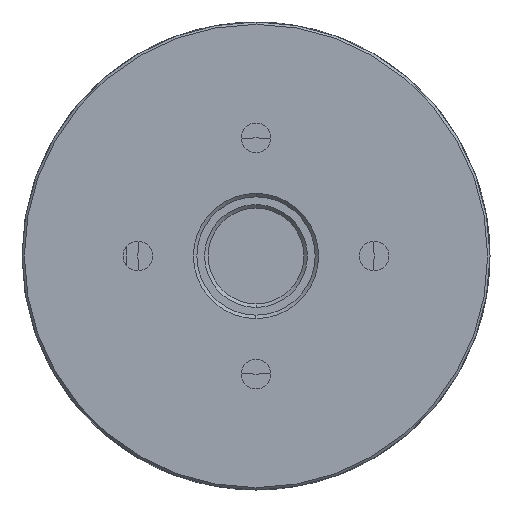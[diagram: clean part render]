
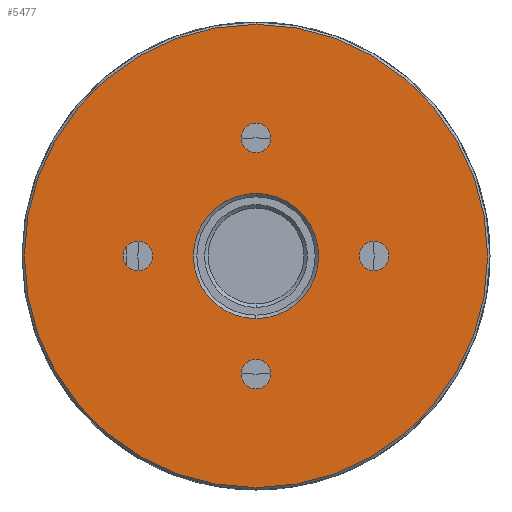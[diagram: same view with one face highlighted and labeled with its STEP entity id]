
A CAD part, left-side view. The second image highlights one B-rep face of the part: STEP entity #5477.
In plain terms, the highlighted planar face has unit normal (-1, 0, 0).
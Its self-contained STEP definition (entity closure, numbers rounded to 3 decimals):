
#197 = CARTESIAN_POINT ( 'NONE',  ( 0., 0., 5.3 ) ) ;
#352 = EDGE_LOOP ( 'NONE', ( #5646, #4902 ) ) ;
#401 = EDGE_CURVE ( 'NONE', #3751, #5992, #841, .T. ) ;
#447 = AXIS2_PLACEMENT_3D ( 'NONE', #2654, #4923, #7214 ) ;
#498 = CARTESIAN_POINT ( 'NONE',  ( 0., 0., -19.6 ) ) ;
#683 = AXIS2_PLACEMENT_3D ( 'NONE', #3806, #959, #2011 ) ;
#688 = VERTEX_POINT ( 'NONE', #6871 ) ;
#704 = DIRECTION ( 'NONE',  ( -1., 0., 0. ) ) ;
#709 = CIRCLE ( 'NONE', #3686, 19.6 ) ;
#819 = EDGE_CURVE ( 'NONE', #946, #4851, #6799, .T. ) ;
#841 = CIRCLE ( 'NONE', #6095, 1.25 ) ;
#900 = FACE_BOUND ( 'NONE', #5764, .T. ) ;
#914 = AXIS2_PLACEMENT_3D ( 'NONE', #2620, #6129, #5570 ) ;
#937 = FACE_BOUND ( 'NONE', #352, .T. ) ;
#946 = VERTEX_POINT ( 'NONE', #4760 ) ;
#959 = DIRECTION ( 'NONE',  ( 1., 0., 0. ) ) ;
#1059 = VERTEX_POINT ( 'NONE', #498 ) ;
#1065 = VERTEX_POINT ( 'NONE', #3858 ) ;
#1079 = CARTESIAN_POINT ( 'NONE',  ( 0., 0., 10. ) ) ;
#1189 = DIRECTION ( 'NONE',  ( 0., 0., 1. ) ) ;
#1194 = DIRECTION ( 'NONE',  ( 0., 0., 1. ) ) ;
#1272 = AXIS2_PLACEMENT_3D ( 'NONE', #6823, #2042, #4329 ) ;
#1385 = CIRCLE ( 'NONE', #2345, 1.25 ) ;
#1468 = ORIENTED_EDGE ( 'NONE', *, *, #4289, .F. ) ;
#1708 = DIRECTION ( 'NONE',  ( -1., 0., 0. ) ) ;
#1727 = CIRCLE ( 'NONE', #5906, 1.25 ) ;
#1782 = CARTESIAN_POINT ( 'NONE',  ( 0., 0., -11.25 ) ) ;
#1792 = DIRECTION ( 'NONE',  ( 0., 0., 1. ) ) ;
#1870 = DIRECTION ( 'NONE',  ( 0., 0., 1. ) ) ;
#1892 = EDGE_LOOP ( 'NONE', ( #5999, #1911 ) ) ;
#1911 = ORIENTED_EDGE ( 'NONE', *, *, #3058, .F. ) ;
#2011 = DIRECTION ( 'NONE',  ( 0., 0., -1. ) ) ;
#2042 = DIRECTION ( 'NONE',  ( -1., 0., 0. ) ) ;
#2096 = FACE_OUTER_BOUND ( 'NONE', #4125, .T. ) ;
#2112 = CIRCLE ( 'NONE', #447, 5.3 ) ;
#2267 = EDGE_CURVE ( 'NONE', #4851, #946, #4434, .T. ) ;
#2345 = AXIS2_PLACEMENT_3D ( 'NONE', #4827, #6486, #7113 ) ;
#2487 = VERTEX_POINT ( 'NONE', #7045 ) ;
#2569 = DIRECTION ( 'NONE',  ( 0., 0., -1. ) ) ;
#2620 = CARTESIAN_POINT ( 'NONE',  ( 0., -10., 0. ) ) ;
#2654 = CARTESIAN_POINT ( 'NONE',  ( 0., 0., 0. ) ) ;
#2660 = PLANE ( 'NONE',  #7239 ) ;
#2828 = CIRCLE ( 'NONE', #4260, 5.3 ) ;
#2846 = AXIS2_PLACEMENT_3D ( 'NONE', #7281, #6276, #1189 ) ;
#2984 = DIRECTION ( 'NONE',  ( 0., 0., 1. ) ) ;
#3011 = EDGE_CURVE ( 'NONE', #1059, #2487, #3895, .T. ) ;
#3014 = ORIENTED_EDGE ( 'NONE', *, *, #3011, .F. ) ;
#3058 = EDGE_CURVE ( 'NONE', #688, #7334, #4490, .T. ) ;
#3118 = AXIS2_PLACEMENT_3D ( 'NONE', #4009, #7371, #6891 ) ;
#3212 = FACE_BOUND ( 'NONE', #7179, .T. ) ;
#3375 = ORIENTED_EDGE ( 'NONE', *, *, #819, .F. ) ;
#3550 = CIRCLE ( 'NONE', #914, 1.25 ) ;
#3585 = VERTEX_POINT ( 'NONE', #6038 ) ;
#3686 = AXIS2_PLACEMENT_3D ( 'NONE', #6538, #6117, #2569 ) ;
#3745 = EDGE_LOOP ( 'NONE', ( #6708, #1468 ) ) ;
#3751 = VERTEX_POINT ( 'NONE', #1782 ) ;
#3784 = FACE_BOUND ( 'NONE', #1892, .T. ) ;
#3806 = CARTESIAN_POINT ( 'NONE',  ( 0., 0., 0. ) ) ;
#3858 = CARTESIAN_POINT ( 'NONE',  ( 0., 0., -5.3 ) ) ;
#3895 = CIRCLE ( 'NONE', #683, 19.6 ) ;
#3999 = DIRECTION ( 'NONE',  ( -1., 0., 0. ) ) ;
#4009 = CARTESIAN_POINT ( 'NONE',  ( 0., 10., 0. ) ) ;
#4074 = DIRECTION ( 'NONE',  ( -1., 0., 0. ) ) ;
#4125 = EDGE_LOOP ( 'NONE', ( #3014, #5886 ) ) ;
#4260 = AXIS2_PLACEMENT_3D ( 'NONE', #6994, #4074, #1870 ) ;
#4289 = EDGE_CURVE ( 'NONE', #3585, #6977, #6062, .T. ) ;
#4329 = DIRECTION ( 'NONE',  ( 0., 0., 1. ) ) ;
#4434 = CIRCLE ( 'NONE', #3118, 1.25 ) ;
#4490 = CIRCLE ( 'NONE', #1272, 1.25 ) ;
#4522 = AXIS2_PLACEMENT_3D ( 'NONE', #5818, #704, #2984 ) ;
#4537 = ORIENTED_EDGE ( 'NONE', *, *, #5852, .F. ) ;
#4540 = ORIENTED_EDGE ( 'NONE', *, *, #2267, .F. ) ;
#4621 = CARTESIAN_POINT ( 'NONE',  ( 0., 10., 1.25 ) ) ;
#4693 = EDGE_CURVE ( 'NONE', #2487, #1059, #709, .T. ) ;
#4760 = CARTESIAN_POINT ( 'NONE',  ( 0., 10., -1.25 ) ) ;
#4827 = CARTESIAN_POINT ( 'NONE',  ( 0., 0., -10. ) ) ;
#4851 = VERTEX_POINT ( 'NONE', #4621 ) ;
#4902 = ORIENTED_EDGE ( 'NONE', *, *, #401, .F. ) ;
#4923 = DIRECTION ( 'NONE',  ( -1., 0., 0. ) ) ;
#4932 = CARTESIAN_POINT ( 'NONE',  ( 0., 19.8, 0. ) ) ;
#5150 = CARTESIAN_POINT ( 'NONE',  ( 0., -10., 1.25 ) ) ;
#5418 = EDGE_CURVE ( 'NONE', #5992, #3751, #1385, .T. ) ;
#5477 = ADVANCED_FACE ( 'NONE', ( #900, #3784, #6063, #937, #3212, #2096 ), #2660, .F. ) ;
#5537 = DIRECTION ( 'NONE',  ( 0., 0., -1. ) ) ;
#5570 = DIRECTION ( 'NONE',  ( 0., 0., 1. ) ) ;
#5599 = EDGE_CURVE ( 'NONE', #7070, #1065, #2112, .T. ) ;
#5640 = EDGE_CURVE ( 'NONE', #6977, #3585, #3550, .T. ) ;
#5646 = ORIENTED_EDGE ( 'NONE', *, *, #5418, .F. ) ;
#5764 = EDGE_LOOP ( 'NONE', ( #7003, #4537 ) ) ;
#5818 = CARTESIAN_POINT ( 'NONE',  ( 0., 10., 0. ) ) ;
#5852 = EDGE_CURVE ( 'NONE', #1065, #7070, #2828, .T. ) ;
#5886 = ORIENTED_EDGE ( 'NONE', *, *, #4693, .F. ) ;
#5906 = AXIS2_PLACEMENT_3D ( 'NONE', #1079, #3999, #1194 ) ;
#5970 = CARTESIAN_POINT ( 'NONE',  ( 0., 0., -8.75 ) ) ;
#5992 = VERTEX_POINT ( 'NONE', #5970 ) ;
#5999 = ORIENTED_EDGE ( 'NONE', *, *, #6933, .F. ) ;
#6038 = CARTESIAN_POINT ( 'NONE',  ( 0., -10., -1.25 ) ) ;
#6062 = CIRCLE ( 'NONE', #2846, 1.25 ) ;
#6063 = FACE_BOUND ( 'NONE', #3745, .T. ) ;
#6095 = AXIS2_PLACEMENT_3D ( 'NONE', #6841, #1708, #1792 ) ;
#6099 = DIRECTION ( 'NONE',  ( 1., 0., 0. ) ) ;
#6117 = DIRECTION ( 'NONE',  ( 1., 0., 0. ) ) ;
#6129 = DIRECTION ( 'NONE',  ( -1., 0., 0. ) ) ;
#6276 = DIRECTION ( 'NONE',  ( -1., 0., 0. ) ) ;
#6486 = DIRECTION ( 'NONE',  ( -1., 0., 0. ) ) ;
#6538 = CARTESIAN_POINT ( 'NONE',  ( 0., 0., 0. ) ) ;
#6708 = ORIENTED_EDGE ( 'NONE', *, *, #5640, .F. ) ;
#6799 = CIRCLE ( 'NONE', #4522, 1.25 ) ;
#6823 = CARTESIAN_POINT ( 'NONE',  ( 0., 0., 10. ) ) ;
#6841 = CARTESIAN_POINT ( 'NONE',  ( 0., 0., -10. ) ) ;
#6871 = CARTESIAN_POINT ( 'NONE',  ( 0., 0., 8.75 ) ) ;
#6891 = DIRECTION ( 'NONE',  ( 0., 0., 1. ) ) ;
#6933 = EDGE_CURVE ( 'NONE', #7334, #688, #1727, .T. ) ;
#6977 = VERTEX_POINT ( 'NONE', #5150 ) ;
#6994 = CARTESIAN_POINT ( 'NONE',  ( 0., 0., 0. ) ) ;
#7003 = ORIENTED_EDGE ( 'NONE', *, *, #5599, .F. ) ;
#7045 = CARTESIAN_POINT ( 'NONE',  ( 0., 0., 19.6 ) ) ;
#7070 = VERTEX_POINT ( 'NONE', #197 ) ;
#7113 = DIRECTION ( 'NONE',  ( 0., 0., 1. ) ) ;
#7179 = EDGE_LOOP ( 'NONE', ( #4540, #3375 ) ) ;
#7214 = DIRECTION ( 'NONE',  ( 0., 0., 1. ) ) ;
#7239 = AXIS2_PLACEMENT_3D ( 'NONE', #4932, #6099, #5537 ) ;
#7277 = CARTESIAN_POINT ( 'NONE',  ( 0., 0., 11.25 ) ) ;
#7281 = CARTESIAN_POINT ( 'NONE',  ( 0., -10., 0. ) ) ;
#7334 = VERTEX_POINT ( 'NONE', #7277 ) ;
#7371 = DIRECTION ( 'NONE',  ( -1., 0., 0. ) ) ;
